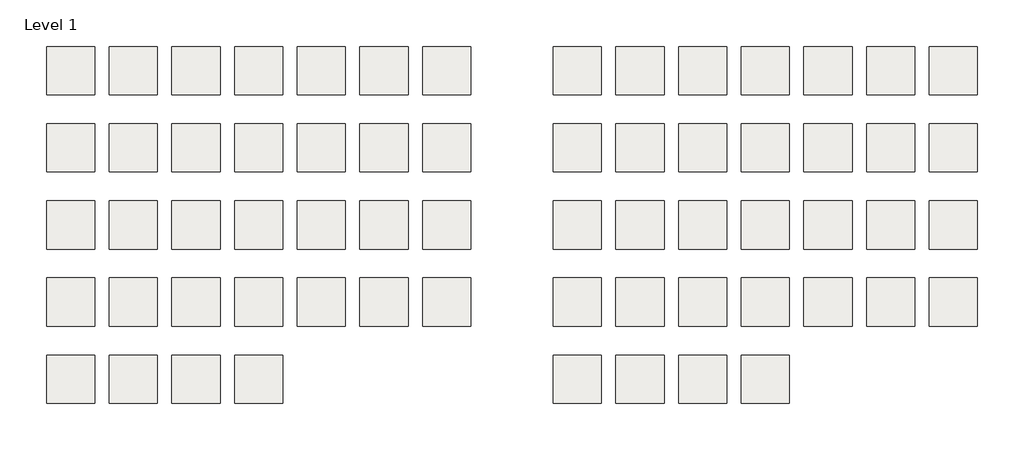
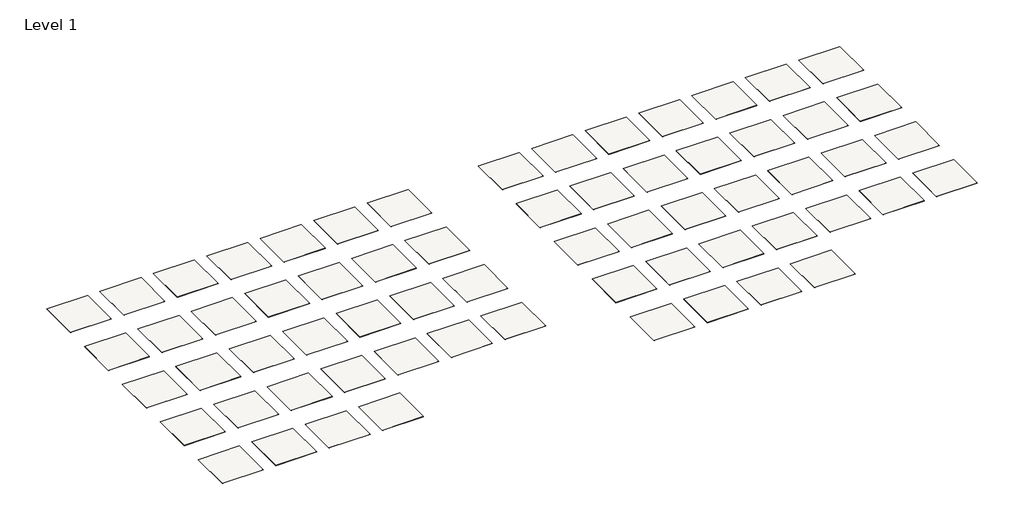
# One storey: 64 slabs.
"""IFC4 building model written with IfcOpenShell, lengths in millimetres."""

import ifcopenshell
import ifcopenshell.guid

model = None  # the IFC model being written
_history = None  # IfcOwnerHistory: only IFC2X3 demands one
_inside = {}  # id of a spatial element -> (the spatial element, [elements in it])
_under = {}  # id of a project, library or spatial element -> (it, [spatial elements below it])
_declared = {}  # id of a project -> (the project, [libraries it declares])
_typed = {}  # id of a type object -> (the type object, [elements of that type])
_made_of = {}  # id of a material, layer set ... -> (it, [elements and type objects made of it])


def new_model(schema):
    """Start an empty IFC model of exactly this schema.

    Asked for "IFC4X3", IfcOpenShell would pick the latest addendum, in which some entities
    have other attributes; the version numbers below select the first issue.
    IFC2X3 requires an IfcOwnerHistory on every rooted entity: one is made here for all.
    """
    global model, _history
    if schema == "IFC4X3":
        model = ifcopenshell.file(schema_version=(4, 3, 0, 0))
    else:
        model = ifcopenshell.file(schema=schema)
    _inside.clear()
    _under.clear()
    _declared.clear()
    _typed.clear()
    _made_of.clear()
    _history = None
    if model.schema == "IFC2X3":
        org = make("IfcOrganization", Name="unknown")
        user = make(
            "IfcPersonAndOrganization",
            ThePerson=make("IfcPerson", FamilyName="unknown"),
            TheOrganization=org,
        )
        app = make(
            "IfcApplication",
            ApplicationDeveloper=org,
            Version="unknown",
            ApplicationFullName="unknown",
            ApplicationIdentifier="unknown",
        )
        _history = make(
            "IfcOwnerHistory",
            OwningUser=user,
            OwningApplication=app,
            ChangeAction="ADDED",
            CreationDate=0,
        )
    return model


def make(cls, **values):
    """One entity of the class cls with the attributes given. An attribute that is None is left unset."""
    return model.create_entity(
        cls, **{name: value for name, value in values.items() if value is not None}
    )


def rooted(cls, **values):
    """An entity with a GlobalId (a new one), such as an element, a storey or a relation."""
    return make(cls, GlobalId=ifcopenshell.guid.new(), OwnerHistory=_history, **values)


def si_unit(unit_type, name, prefix=None):
    """IfcSIUnit, for example si_unit("LENGTHUNIT", "METRE", prefix="MILLI")."""
    return make("IfcSIUnit", UnitType=unit_type, Prefix=prefix, Name=name)


def assignment(units):
    """IfcUnitAssignment: the units of a project."""
    return None if units is None else make("IfcUnitAssignment", Units=units)


def point(xyz):
    """IfcCartesianPoint."""
    return None if xyz is None else make("IfcCartesianPoint", Coordinates=xyz)


def direction(xyz):
    """IfcDirection."""
    return None if xyz is None else make("IfcDirection", DirectionRatios=xyz)


def frame(location, z_axis=None, x_axis=None):
    """IfcAxis2Placement3D, a coordinate frame: its origin and axes. An axis left out is left unset."""
    return make(
        "IfcAxis2Placement3D",
        Location=point(location),
        Axis=direction(z_axis),
        RefDirection=direction(x_axis),
    )


def origin():
    """The frame at (0, 0, 0) with its axes left unset."""
    return frame((0.0, 0.0, 0.0))


def place(relative_to, where):
    """IfcLocalPlacement: puts the frame where relative to a parent placement (None: the world)."""
    return make(
        "IfcLocalPlacement", PlacementRelTo=relative_to, RelativePlacement=where
    )


def context(
    kind, dimensions, precision=None, world=None, true_north=None, identifier=None
):
    """IfcGeometricRepresentationContext, for example the 3D "Model" context."""
    return make(
        "IfcGeometricRepresentationContext",
        ContextIdentifier=identifier,
        ContextType=kind,
        CoordinateSpaceDimension=dimensions,
        Precision=precision,
        WorldCoordinateSystem=world,
        TrueNorth=true_north,
    )


def project(units=None, contexts=None):
    """IfcProject with its units and contexts."""
    return rooted(
        "IfcProject",
        Name="project",
        RepresentationContexts=contexts,
        UnitsInContext=assignment(units),
    )


def spatial(cls, under=None, at=None, **own):
    """A site, building, storey or space (cls), placed at a placement, below another one or the project."""
    s = rooted(cls, ObjectPlacement=at, **own)
    if under is not None:
        _under.setdefault(under.id(), (under, []))[1].append(s)
    return s


def polyline(points):
    """IfcPolyline through the points."""
    return make("IfcPolyline", Points=[point(p) for p in points])


def outline(outer, holes=None, kind="AREA"):
    """IfcArbitraryClosedProfileDef: a profile drawn as a closed curve; with holes, ...WithVoids."""
    if holes is None:
        return make("IfcArbitraryClosedProfileDef", ProfileType=kind, OuterCurve=outer)
    return make(
        "IfcArbitraryProfileDefWithVoids",
        ProfileType=kind,
        OuterCurve=outer,
        InnerCurves=holes,
    )


def extrude(swept, where, along, depth):
    """IfcExtrudedAreaSolid: the profile swept, set in the frame where, extruded along a direction by depth."""
    return make(
        "IfcExtrudedAreaSolid",
        SweptArea=swept,
        Position=where,
        ExtrudedDirection=direction(along),
        Depth=depth,
    )


def shape(context_of_items, identifier, shape_type, items):
    """IfcShapeRepresentation: the items that make up one representation, for example the "Body"."""
    return make(
        "IfcShapeRepresentation",
        ContextOfItems=context_of_items,
        RepresentationIdentifier=identifier,
        RepresentationType=shape_type,
        Items=items,
    )


def made_of(thing, what):
    """Note that an element or type object is made of a material, layer set ...; save() writes the relation."""
    if what is not None:
        _made_of.setdefault(what.id(), (what, []))[1].append(thing)
    return thing


def element(
    cls,
    number,
    at=None,
    inside=None,
    cuts=None,
    type_object=None,
    material=None,
    context=None,
    identifier="Body",
    shape_type=None,
    held_by="IfcProductDefinitionShape",
    body=None,
    shapes=None,
    **own,
):
    """One element of the class cls, such as IfcWall. Its Tag is "e" and its number.

    at: its placement. inside: the storey or other place that contains it. cuts: it is an
    opening in that element (IfcRelVoidsElement). A single representation is given by context,
    identifier, shape_type and body (its items); several are given by shapes. held_by: the class
    of the entity that holds the representations. save() writes the other relations.
    """
    e = rooted(cls, Tag="e%d" % number, ObjectPlacement=at, **own)
    if body is not None:
        shapes = [shape(context, identifier, shape_type, body)]
    if shapes is not None:
        e.Representation = make(held_by, Representations=shapes)
    if inside is not None:
        _inside.setdefault(inside.id(), (inside, []))[1].append(e)
    if cuts is not None:
        rooted(
            "IfcRelVoidsElement", RelatingBuildingElement=cuts, RelatedOpeningElement=e
        )
    if type_object is not None:
        _typed.setdefault(type_object.id(), (type_object, []))[1].append(e)
    return made_of(e, material)


def aggregate(whole, parts):
    """IfcRelAggregates: a whole, such as a stair, and the parts it consists of."""
    return rooted("IfcRelAggregates", RelatingObject=whole, RelatedObjects=parts)


def save(model, path):
    """Write the relations noted so far, then the file.

    IfcRelAggregates (storeys below a building ...), IfcRelContainedInSpatialStructure (elements
    in a storey), IfcRelDefinesByType, IfcRelAssociatesMaterial and IfcRelDeclares: one each for
    every whole, place, type object, material and project.
    """
    for whole, parts in _under.values():
        aggregate(whole, parts)
    for where, things in _inside.values():
        rooted(
            "IfcRelContainedInSpatialStructure",
            RelatedElements=things,
            RelatingStructure=where,
        )
    for kind, things in _typed.values():
        rooted("IfcRelDefinesByType", RelatedObjects=things, RelatingType=kind)
    for what, things in _made_of.values():
        rooted("IfcRelAssociatesMaterial", RelatedObjects=things, RelatingMaterial=what)
    for by, libraries in _declared.values():
        rooted("IfcRelDeclares", RelatingContext=by, RelatedDefinitions=libraries)
    model.write(path)


model = new_model("IFC4")

# Units and contexts
model_context = context("Model", 3, world=origin())
ifc_project = project(units=[si_unit("LENGTHUNIT", "METRE", prefix="MILLI")], contexts=[model_context])

# Site, building, storey
site = spatial("IfcSite", under=ifc_project)
building = spatial("IfcBuilding", under=site)
storey = spatial("IfcBuildingStorey", under=building, Name="Level 1", Elevation=0.0)

# Slabs
placement = place(None, origin())
element("IfcSlab", 1, ObjectType="Armstrong_VCT_Excelon ChromaSpin_54800 zinc oxide", at=placement, inside=storey, context=model_context, shape_type="SweptSolid", body=[
    extrude(outline(polyline([(3311.6055838, 2884.7695431), (3311.6055838, 1360.7695431), (1787.6055838, 1360.7695431), (1787.6055838, 2884.7695431), (3311.6055838, 2884.7695431)])), frame((0.0, 0.0, -3.175), z_axis=(0.0, 0.0, 1.0), x_axis=(1.0, 0.0, 0.0)), (0.0, 0.0, 1.0), 3.175),
])
element("IfcSlab", 2, ObjectType="Armstrong_VCT_Excelon ChromaSpin_54801 paynes gray", at=placement, inside=storey, context=model_context, shape_type="SweptSolid", body=[
    extrude(outline(polyline([(5292.8055838, 2884.7695431), (5292.8055838, 1360.7695431), (3768.8055838, 1360.7695431), (3768.8055838, 2884.7695431), (5292.8055838, 2884.7695431)])), frame((0.0, 0.0, -3.175), z_axis=(0.0, 0.0, 1.0), x_axis=(1.0, 0.0, 0.0)), (0.0, 0.0, 1.0), 3.175),
])
element("IfcSlab", 3, ObjectType="Armstrong_VCT_Excelon ChromaSpin_54802 carbonite", at=placement, inside=storey, context=model_context, shape_type="SweptSolid", body=[
    extrude(outline(polyline([(7274.0055838, 2884.7695431), (7274.0055838, 1360.7695431), (5750.0055838, 1360.7695431), (5750.0055838, 2884.7695431), (7274.0055838, 2884.7695431)])), frame((0.0, 0.0, -3.175), z_axis=(0.0, 0.0, 1.0), x_axis=(1.0, 0.0, 0.0)), (0.0, 0.0, 1.0), 3.175),
])
element("IfcSlab", 4, ObjectType="Armstrong_VCT_Excelon ChromaSpin_54803 lamp black", at=placement, inside=storey, context=model_context, shape_type="SweptSolid", body=[
    extrude(outline(polyline([(9255.2055838, 2884.7695431), (9255.2055838, 1360.7695431), (7731.2055838, 1360.7695431), (7731.2055838, 2884.7695431), (9255.2055838, 2884.7695431)])), frame((0.0, 0.0, -3.175), z_axis=(0.0, 0.0, 1.0), x_axis=(1.0, 0.0, 0.0)), (0.0, 0.0, 1.0), 3.175),
])
element("IfcSlab", 5, ObjectType="Armstrong_VCT_Excelon ChromaSpin_54804 monotype", at=placement, inside=storey, context=model_context, shape_type="SweptSolid", body=[
    extrude(outline(polyline([(11236.4055838, 2884.7695431), (11236.4055838, 1360.7695431), (9712.4055838, 1360.7695431), (9712.4055838, 2884.7695431), (11236.4055838, 2884.7695431)])), frame((0.0, 0.0, -3.175), z_axis=(0.0, 0.0, 1.0), x_axis=(1.0, 0.0, 0.0)), (0.0, 0.0, 1.0), 3.175),
])
element("IfcSlab", 6, ObjectType="Armstrong_VCT_Excelon ChromaSpin_54805 aquatint", at=placement, inside=storey, context=model_context, shape_type="SweptSolid", body=[
    extrude(outline(polyline([(13217.6055838, 2884.7695431), (13217.6055838, 1360.7695431), (11693.6055838, 1360.7695431), (11693.6055838, 2884.7695431), (13217.6055838, 2884.7695431)])), frame((0.0, 0.0, -3.175), z_axis=(0.0, 0.0, 1.0), x_axis=(1.0, 0.0, 0.0)), (0.0, 0.0, 1.0), 3.175),
])
element("IfcSlab", 7, ObjectType="Armstrong_VCT_Excelon ChromaSpin_54806 mezzotint", at=placement, inside=storey, context=model_context, shape_type="SweptSolid", body=[
    extrude(outline(polyline([(15198.8055838, 2884.7695431), (15198.8055838, 1360.7695431), (13674.8055838, 1360.7695431), (13674.8055838, 2884.7695431), (15198.8055838, 2884.7695431)])), frame((0.0, 0.0, -3.175), z_axis=(0.0, 0.0, 1.0), x_axis=(1.0, 0.0, 0.0)), (0.0, 0.0, 1.0), 3.175),
])
element("IfcSlab", 8, ObjectType="Armstrong_VCT_Excelon ChromaSpin_54807 primer white", at=placement, inside=storey, context=model_context, shape_type="SweptSolid", body=[
    extrude(outline(polyline([(3311.6055838, 446.3695431), (3311.6055838, -1077.6304569), (1787.6055838, -1077.6304569), (1787.6055838, 446.3695431), (3311.6055838, 446.3695431)])), frame((0.0, 0.0, -3.175), z_axis=(0.0, 0.0, 1.0), x_axis=(1.0, 0.0, 0.0)), (0.0, 0.0, 1.0), 3.175),
])
element("IfcSlab", 9, ObjectType="Armstrong_VCT_Excelon ChromaSpin_54808 silk", at=placement, inside=storey, context=model_context, shape_type="SweptSolid", body=[
    extrude(outline(polyline([(5292.8055838, 446.3695431), (5292.8055838, -1077.6304569), (3768.8055838, -1077.6304569), (3768.8055838, 446.3695431), (5292.8055838, 446.3695431)])), frame((0.0, 0.0, -3.175), z_axis=(0.0, 0.0, 1.0), x_axis=(1.0, 0.0, 0.0)), (0.0, 0.0, 1.0), 3.175),
])
element("IfcSlab", 10, ObjectType="Armstrong_VCT_Excelon ChromaSpin_54809 chairoscuro", at=placement, inside=storey, context=model_context, shape_type="SweptSolid", body=[
    extrude(outline(polyline([(7274.0055838, 446.3695431), (7274.0055838, -1077.6304569), (5750.0055838, -1077.6304569), (5750.0055838, 446.3695431), (7274.0055838, 446.3695431)])), frame((0.0, 0.0, -3.175), z_axis=(0.0, 0.0, 1.0), x_axis=(1.0, 0.0, 0.0)), (0.0, 0.0, 1.0), 3.175),
])
element("IfcSlab", 11, ObjectType="Armstrong_VCT_Excelon ChromaSpin_54810 blanco", at=placement, inside=storey, context=model_context, shape_type="SweptSolid", body=[
    extrude(outline(polyline([(9255.2055838, 446.3695431), (9255.2055838, -1077.6304569), (7731.2055838, -1077.6304569), (7731.2055838, 446.3695431), (9255.2055838, 446.3695431)])), frame((0.0, 0.0, -3.175), z_axis=(0.0, 0.0, 1.0), x_axis=(1.0, 0.0, 0.0)), (0.0, 0.0, 1.0), 3.175),
])
element("IfcSlab", 12, ObjectType="Armstrong_VCT_Excelon ChromaSpin_54811 encaustic", at=placement, inside=storey, context=model_context, shape_type="SweptSolid", body=[
    extrude(outline(polyline([(11236.4055838, 446.3695431), (11236.4055838, -1077.6304569), (9712.4055838, -1077.6304569), (9712.4055838, 446.3695431), (11236.4055838, 446.3695431)])), frame((0.0, 0.0, -3.175), z_axis=(0.0, 0.0, 1.0), x_axis=(1.0, 0.0, 0.0)), (0.0, 0.0, 1.0), 3.175),
])
element("IfcSlab", 13, ObjectType="Armstrong_VCT_Excelon ChromaSpin_54812 sepiatone", at=placement, inside=storey, context=model_context, shape_type="SweptSolid", body=[
    extrude(outline(polyline([(13217.6055838, 446.3695431), (13217.6055838, -1077.6304569), (11693.6055838, -1077.6304569), (11693.6055838, 446.3695431), (13217.6055838, 446.3695431)])), frame((0.0, 0.0, -3.175), z_axis=(0.0, 0.0, 1.0), x_axis=(1.0, 0.0, 0.0)), (0.0, 0.0, 1.0), 3.175),
])
element("IfcSlab", 14, ObjectType="Armstrong_VCT_Excelon ChromaSpin_54813 durer brown", at=placement, inside=storey, context=model_context, shape_type="SweptSolid", body=[
    extrude(outline(polyline([(15198.8055838, 446.3695431), (15198.8055838, -1077.6304569), (13674.8055838, -1077.6304569), (13674.8055838, 446.3695431), (15198.8055838, 446.3695431)])), frame((0.0, 0.0, -3.175), z_axis=(0.0, 0.0, 1.0), x_axis=(1.0, 0.0, 0.0)), (0.0, 0.0, 1.0), 3.175),
])
element("IfcSlab", 15, ObjectType="Armstrong_VCT_Excelon ChromaSpin_5414 muslin", at=placement, inside=storey, context=model_context, shape_type="SweptSolid", body=[
    extrude(outline(polyline([(3311.6055838, -1992.0304569), (3311.6055838, -3516.0304569), (1787.6055838, -3516.0304569), (1787.6055838, -1992.0304569), (3311.6055838, -1992.0304569)])), frame((0.0, 0.0, -3.175), z_axis=(0.0, 0.0, 1.0), x_axis=(1.0, 0.0, 0.0)), (0.0, 0.0, 1.0), 3.175),
])
element("IfcSlab", 16, ObjectType="Armstrong_VCT_Excelon ChromaSpin_54815 soft ochre", at=placement, inside=storey, context=model_context, shape_type="SweptSolid", body=[
    extrude(outline(polyline([(5292.8055838, -1992.0304569), (5292.8055838, -3516.0304569), (3768.8055838, -3516.0304569), (3768.8055838, -1992.0304569), (5292.8055838, -1992.0304569)])), frame((0.0, 0.0, -3.175), z_axis=(0.0, 0.0, 1.0), x_axis=(1.0, 0.0, 0.0)), (0.0, 0.0, 1.0), 3.175),
])
element("IfcSlab", 17, ObjectType="Armstrong_VCT_Excelon ChromaSpin_54816 raw sienna", at=placement, inside=storey, context=model_context, shape_type="SweptSolid", body=[
    extrude(outline(polyline([(7274.0055838, -1992.0304569), (7274.0055838, -3516.0304569), (5750.0055838, -3516.0304569), (5750.0055838, -1992.0304569), (7274.0055838, -1992.0304569)])), frame((0.0, 0.0, -3.175), z_axis=(0.0, 0.0, 1.0), x_axis=(1.0, 0.0, 0.0)), (0.0, 0.0, 1.0), 3.175),
])
element("IfcSlab", 18, ObjectType="Armstrong_VCT_Excelon ChromaSpin_54817 deep yellow", at=placement, inside=storey, context=model_context, shape_type="SweptSolid", body=[
    extrude(outline(polyline([(9255.2055838, -1992.0304569), (9255.2055838, -3516.0304569), (7731.2055838, -3516.0304569), (7731.2055838, -1992.0304569), (9255.2055838, -1992.0304569)])), frame((0.0, 0.0, -3.175), z_axis=(0.0, 0.0, 1.0), x_axis=(1.0, 0.0, 0.0)), (0.0, 0.0, 1.0), 3.175),
])
element("IfcSlab", 19, ObjectType="Armstrong_VCT_Excelon ChromaSpin_54818 india red", at=placement, inside=storey, context=model_context, shape_type="SweptSolid", body=[
    extrude(outline(polyline([(11236.4055838, -1992.0304569), (11236.4055838, -3516.0304569), (9712.4055838, -3516.0304569), (9712.4055838, -1992.0304569), (11236.4055838, -1992.0304569)])), frame((0.0, 0.0, -3.175), z_axis=(0.0, 0.0, 1.0), x_axis=(1.0, 0.0, 0.0)), (0.0, 0.0, 1.0), 3.175),
])
element("IfcSlab", 20, ObjectType="Armstrong_VCT_Excelon ChromaSpin_54819 conte crayon", at=placement, inside=storey, context=model_context, shape_type="SweptSolid", body=[
    extrude(outline(polyline([(13217.6055838, -1992.0304569), (13217.6055838, -3516.0304569), (11693.6055838, -3516.0304569), (11693.6055838, -1992.0304569), (13217.6055838, -1992.0304569)])), frame((0.0, 0.0, -3.175), z_axis=(0.0, 0.0, 1.0), x_axis=(1.0, 0.0, 0.0)), (0.0, 0.0, 1.0), 3.175),
])
element("IfcSlab", 21, ObjectType="Armstrong_VCT_Excelon ChromaSpin_54820 brilliant orange", at=placement, inside=storey, context=model_context, shape_type="SweptSolid", body=[
    extrude(outline(polyline([(15198.8055838, -1992.0304569), (15198.8055838, -3516.0304569), (13674.8055838, -3516.0304569), (13674.8055838, -1992.0304569), (15198.8055838, -1992.0304569)])), frame((0.0, 0.0, -3.175), z_axis=(0.0, 0.0, 1.0), x_axis=(1.0, 0.0, 0.0)), (0.0, 0.0, 1.0), 3.175),
])
element("IfcSlab", 22, ObjectType="Armstrong_VCT_Excelon ChromaSpin_54821 alizarin crimson", at=placement, inside=storey, context=model_context, shape_type="SweptSolid", body=[
    extrude(outline(polyline([(3311.6055838, -4430.4304569), (3311.6055838, -5954.4304569), (1787.6055838, -5954.4304569), (1787.6055838, -4430.4304569), (3311.6055838, -4430.4304569)])), frame((0.0, 0.0, -3.175), z_axis=(0.0, 0.0, 1.0), x_axis=(1.0, 0.0, 0.0)), (0.0, 0.0, 1.0), 3.175),
])
element("IfcSlab", 23, ObjectType="Armstrong_VCT_Excelon ChromaSpin_54822 carminelle", at=placement, inside=storey, context=model_context, shape_type="SweptSolid", body=[
    extrude(outline(polyline([(5292.8055838, -4430.4304569), (5292.8055838, -5954.4304569), (3768.8055838, -5954.4304569), (3768.8055838, -4430.4304569), (5292.8055838, -4430.4304569)])), frame((0.0, 0.0, -3.175), z_axis=(0.0, 0.0, 1.0), x_axis=(1.0, 0.0, 0.0)), (0.0, 0.0, 1.0), 3.175),
])
element("IfcSlab", 24, ObjectType="Armstrong_VCT_Excelon ChromaSpin_54823 flash red", at=placement, inside=storey, context=model_context, shape_type="SweptSolid", body=[
    extrude(outline(polyline([(7274.0055838, -4430.4304569), (7274.0055838, -5954.4304569), (5750.0055838, -5954.4304569), (5750.0055838, -4430.4304569), (7274.0055838, -4430.4304569)])), frame((0.0, 0.0, -3.175), z_axis=(0.0, 0.0, 1.0), x_axis=(1.0, 0.0, 0.0)), (0.0, 0.0, 1.0), 3.175),
])
element("IfcSlab", 25, ObjectType="Armstrong_VCT_Excelon ChromaSpin_54824 neodymium", at=placement, inside=storey, context=model_context, shape_type="SweptSolid", body=[
    extrude(outline(polyline([(9255.2055838, -4430.4304569), (9255.2055838, -5954.4304569), (7731.2055838, -5954.4304569), (7731.2055838, -4430.4304569), (9255.2055838, -4430.4304569)])), frame((0.0, 0.0, -3.175), z_axis=(0.0, 0.0, 1.0), x_axis=(1.0, 0.0, 0.0)), (0.0, 0.0, 1.0), 3.175),
])
element("IfcSlab", 26, ObjectType="Armstrong_VCT_Excelon ChromaSpin_54825 mineral blue", at=placement, inside=storey, context=model_context, shape_type="SweptSolid", body=[
    extrude(outline(polyline([(11236.4055838, -4430.4304569), (11236.4055838, -5954.4304569), (9712.4055838, -5954.4304569), (9712.4055838, -4430.4304569), (11236.4055838, -4430.4304569)])), frame((0.0, 0.0, -3.175), z_axis=(0.0, 0.0, 1.0), x_axis=(1.0, 0.0, 0.0)), (0.0, 0.0, 1.0), 3.175),
])
element("IfcSlab", 27, ObjectType="Armstrong_VCT_Excelon ChromaSpin_54826 windsor blue", at=placement, inside=storey, context=model_context, shape_type="SweptSolid", body=[
    extrude(outline(polyline([(13217.6055838, -4430.4304569), (13217.6055838, -5954.4304569), (11693.6055838, -5954.4304569), (11693.6055838, -4430.4304569), (13217.6055838, -4430.4304569)])), frame((0.0, 0.0, -3.175), z_axis=(0.0, 0.0, 1.0), x_axis=(1.0, 0.0, 0.0)), (0.0, 0.0, 1.0), 3.175),
])
element("IfcSlab", 28, ObjectType="Armstrong_VCT_Excelon ChromaSpin_54827 cerulean", at=placement, inside=storey, context=model_context, shape_type="SweptSolid", body=[
    extrude(outline(polyline([(15198.8055838, -4430.4304569), (15198.8055838, -5954.4304569), (13674.8055838, -5954.4304569), (13674.8055838, -4430.4304569), (15198.8055838, -4430.4304569)])), frame((0.0, 0.0, -3.175), z_axis=(0.0, 0.0, 1.0), x_axis=(1.0, 0.0, 0.0)), (0.0, 0.0, 1.0), 3.175),
])
element("IfcSlab", 29, ObjectType="Armstrong_VCT_Excelon ChromaSpin_54828 vermeer green", at=placement, inside=storey, context=model_context, shape_type="SweptSolid", body=[
    extrude(outline(polyline([(3311.6055838, -6868.8304569), (3311.6055838, -8392.8304569), (1787.6055838, -8392.8304569), (1787.6055838, -6868.8304569), (3311.6055838, -6868.8304569)])), frame((0.0, 0.0, -3.175), z_axis=(0.0, 0.0, 1.0), x_axis=(1.0, 0.0, 0.0)), (0.0, 0.0, 1.0), 3.175),
])
element("IfcSlab", 30, ObjectType="Armstrong_VCT_Excelon ChromaSpin_54829 shadow green", at=placement, inside=storey, context=model_context, shape_type="SweptSolid", body=[
    extrude(outline(polyline([(5292.8055838, -6868.8304569), (5292.8055838, -8392.8304569), (3768.8055838, -8392.8304569), (3768.8055838, -6868.8304569), (5292.8055838, -6868.8304569)])), frame((0.0, 0.0, -3.175), z_axis=(0.0, 0.0, 1.0), x_axis=(1.0, 0.0, 0.0)), (0.0, 0.0, 1.0), 3.175),
])
element("IfcSlab", 31, ObjectType="Armstrong_VCT_Excelon ChromaSpin_54830 chrome green", at=placement, inside=storey, context=model_context, shape_type="SweptSolid", body=[
    extrude(outline(polyline([(7274.0055838, -6868.8304569), (7274.0055838, -8392.8304569), (5750.0055838, -8392.8304569), (5750.0055838, -6868.8304569), (7274.0055838, -6868.8304569)])), frame((0.0, 0.0, -3.175), z_axis=(0.0, 0.0, 1.0), x_axis=(1.0, 0.0, 0.0)), (0.0, 0.0, 1.0), 3.175),
])
element("IfcSlab", 32, ObjectType="Armstrong_VCT_Excelon ChromaSpin_54831 olive", at=placement, inside=storey, context=model_context, shape_type="SweptSolid", body=[
    extrude(outline(polyline([(9255.2055838, -6868.8304569), (9255.2055838, -8392.8304569), (7731.2055838, -8392.8304569), (7731.2055838, -6868.8304569), (9255.2055838, -6868.8304569)])), frame((0.0, 0.0, -3.175), z_axis=(0.0, 0.0, 1.0), x_axis=(1.0, 0.0, 0.0)), (0.0, 0.0, 1.0), 3.175),
])
element("IfcSlab", 33, ObjectType="Armstrong_VCT_Excelon ChromaSpin_54800 zinc oxide (quarter turned)", at=placement, inside=storey, context=model_context, shape_type="SweptSolid", body=[
    extrude(outline(polyline([(19325.5836473, 2884.7695431), (19325.5836473, 1360.7695431), (17801.5836473, 1360.7695431), (17801.5836473, 2884.7695431), (19325.5836473, 2884.7695431)])), frame((0.0, 0.0, -3.175), z_axis=(0.0, 0.0, 1.0), x_axis=(1.0, 0.0, 0.0)), (0.0, 0.0, 1.0), 3.175),
])
element("IfcSlab", 34, ObjectType="Armstrong_VCT_Excelon ChromaSpin_54801 paynes gray (quarter turned)", at=placement, inside=storey, context=model_context, shape_type="SweptSolid", body=[
    extrude(outline(polyline([(21306.7836473, 2884.7695431), (21306.7836473, 1360.7695431), (19782.7836473, 1360.7695431), (19782.7836473, 2884.7695431), (21306.7836473, 2884.7695431)])), frame((0.0, 0.0, -3.175), z_axis=(0.0, 0.0, 1.0), x_axis=(1.0, 0.0, 0.0)), (0.0, 0.0, 1.0), 3.175),
])
element("IfcSlab", 35, ObjectType="Armstrong_VCT_Excelon ChromaSpin_54802 carbonite (quarter turned)", at=placement, inside=storey, context=model_context, shape_type="SweptSolid", body=[
    extrude(outline(polyline([(23287.9836473, 2884.7695431), (23287.9836473, 1360.7695431), (21763.9836473, 1360.7695431), (21763.9836473, 2884.7695431), (23287.9836473, 2884.7695431)])), frame((0.0, 0.0, -3.175), z_axis=(0.0, 0.0, 1.0), x_axis=(1.0, 0.0, 0.0)), (0.0, 0.0, 1.0), 3.175),
])
element("IfcSlab", 36, ObjectType="Armstrong_VCT_Excelon ChromaSpin_54803 lamp black (quarter turned)", at=placement, inside=storey, context=model_context, shape_type="SweptSolid", body=[
    extrude(outline(polyline([(25269.1836473, 2884.7695431), (25269.1836473, 1360.7695431), (23745.1836473, 1360.7695431), (23745.1836473, 2884.7695431), (25269.1836473, 2884.7695431)])), frame((0.0, 0.0, -3.175), z_axis=(0.0, 0.0, 1.0), x_axis=(1.0, 0.0, 0.0)), (0.0, 0.0, 1.0), 3.175),
])
element("IfcSlab", 37, ObjectType="Armstrong_VCT_Excelon ChromaSpin_54804 monotype (quarter turned)", at=placement, inside=storey, context=model_context, shape_type="SweptSolid", body=[
    extrude(outline(polyline([(27250.3836473, 2884.7695431), (27250.3836473, 1360.7695431), (25726.3836473, 1360.7695431), (25726.3836473, 2884.7695431), (27250.3836473, 2884.7695431)])), frame((0.0, 0.0, -3.175), z_axis=(0.0, 0.0, 1.0), x_axis=(1.0, 0.0, 0.0)), (0.0, 0.0, 1.0), 3.175),
])
element("IfcSlab", 38, ObjectType="Armstrong_VCT_Excelon ChromaSpin_54805 aquatint (quarter turned)", at=placement, inside=storey, context=model_context, shape_type="SweptSolid", body=[
    extrude(outline(polyline([(29231.5836473, 2884.7695431), (29231.5836473, 1360.7695431), (27707.5836473, 1360.7695431), (27707.5836473, 2884.7695431), (29231.5836473, 2884.7695431)])), frame((0.0, 0.0, -3.175), z_axis=(0.0, 0.0, 1.0), x_axis=(1.0, 0.0, 0.0)), (0.0, 0.0, 1.0), 3.175),
])
element("IfcSlab", 39, ObjectType="Armstrong_VCT_Excelon ChromaSpin_54806 mezzotint (quarter turned)", at=placement, inside=storey, context=model_context, shape_type="SweptSolid", body=[
    extrude(outline(polyline([(31212.7836473, 2884.7695431), (31212.7836473, 1360.7695431), (29688.7836473, 1360.7695431), (29688.7836473, 2884.7695431), (31212.7836473, 2884.7695431)])), frame((0.0, 0.0, -3.175), z_axis=(0.0, 0.0, 1.0), x_axis=(1.0, 0.0, 0.0)), (0.0, 0.0, 1.0), 3.175),
])
element("IfcSlab", 40, ObjectType="Armstrong_VCT_Excelon ChromaSpin_54807 primer white (quarter turned)", at=placement, inside=storey, context=model_context, shape_type="SweptSolid", body=[
    extrude(outline(polyline([(19325.5836473, 446.3695431), (19325.5836473, -1077.6304569), (17801.5836473, -1077.6304569), (17801.5836473, 446.3695431), (19325.5836473, 446.3695431)])), frame((0.0, 0.0, -3.175), z_axis=(0.0, 0.0, 1.0), x_axis=(1.0, 0.0, 0.0)), (0.0, 0.0, 1.0), 3.175),
])
element("IfcSlab", 41, ObjectType="Armstrong_VCT_Excelon ChromaSpin_54808 silk (quarter turned)", at=placement, inside=storey, context=model_context, shape_type="SweptSolid", body=[
    extrude(outline(polyline([(21306.7836473, 446.3695431), (21306.7836473, -1077.6304569), (19782.7836473, -1077.6304569), (19782.7836473, 446.3695431), (21306.7836473, 446.3695431)])), frame((0.0, 0.0, -3.175), z_axis=(0.0, 0.0, 1.0), x_axis=(1.0, 0.0, 0.0)), (0.0, 0.0, 1.0), 3.175),
])
element("IfcSlab", 42, ObjectType="Armstrong_VCT_Excelon ChromaSpin_54809 chairoscuro (quarter turned)", at=placement, inside=storey, context=model_context, shape_type="SweptSolid", body=[
    extrude(outline(polyline([(23287.9836473, 446.3695431), (23287.9836473, -1077.6304569), (21763.9836473, -1077.6304569), (21763.9836473, 446.3695431), (23287.9836473, 446.3695431)])), frame((0.0, 0.0, -3.175), z_axis=(0.0, 0.0, 1.0), x_axis=(1.0, 0.0, 0.0)), (0.0, 0.0, 1.0), 3.175),
])
element("IfcSlab", 43, ObjectType="Armstrong_VCT_Excelon ChromaSpin_54810 blanco (quarter turned)", at=placement, inside=storey, context=model_context, shape_type="SweptSolid", body=[
    extrude(outline(polyline([(25269.1836473, 446.3695431), (25269.1836473, -1077.6304569), (23745.1836473, -1077.6304569), (23745.1836473, 446.3695431), (25269.1836473, 446.3695431)])), frame((0.0, 0.0, -3.175), z_axis=(0.0, 0.0, 1.0), x_axis=(1.0, 0.0, 0.0)), (0.0, 0.0, 1.0), 3.175),
])
element("IfcSlab", 44, ObjectType="Armstrong_VCT_Excelon ChromaSpin_54811 encaustic (quarter turned)", at=placement, inside=storey, context=model_context, shape_type="SweptSolid", body=[
    extrude(outline(polyline([(27250.3836473, 446.3695431), (27250.3836473, -1077.6304569), (25726.3836473, -1077.6304569), (25726.3836473, 446.3695431), (27250.3836473, 446.3695431)])), frame((0.0, 0.0, -3.175), z_axis=(0.0, 0.0, 1.0), x_axis=(1.0, 0.0, 0.0)), (0.0, 0.0, 1.0), 3.175),
])
element("IfcSlab", 45, ObjectType="Armstrong_VCT_Excelon ChromaSpin_54812 sepiatone (quarter turned)", at=placement, inside=storey, context=model_context, shape_type="SweptSolid", body=[
    extrude(outline(polyline([(29231.5836473, 446.3695431), (29231.5836473, -1077.6304569), (27707.5836473, -1077.6304569), (27707.5836473, 446.3695431), (29231.5836473, 446.3695431)])), frame((0.0, 0.0, -3.175), z_axis=(0.0, 0.0, 1.0), x_axis=(1.0, 0.0, 0.0)), (0.0, 0.0, 1.0), 3.175),
])
element("IfcSlab", 46, ObjectType="Armstrong_VCT_Excelon ChromaSpin_54813 durer brown (quarter turned)", at=placement, inside=storey, context=model_context, shape_type="SweptSolid", body=[
    extrude(outline(polyline([(31212.7836473, 446.3695431), (31212.7836473, -1077.6304569), (29688.7836473, -1077.6304569), (29688.7836473, 446.3695431), (31212.7836473, 446.3695431)])), frame((0.0, 0.0, -3.175), z_axis=(0.0, 0.0, 1.0), x_axis=(1.0, 0.0, 0.0)), (0.0, 0.0, 1.0), 3.175),
])
element("IfcSlab", 47, ObjectType="Armstrong_VCT_Excelon ChromaSpin_5414 muslin (quarter turned)", at=placement, inside=storey, context=model_context, shape_type="SweptSolid", body=[
    extrude(outline(polyline([(19325.5836473, -1992.0304569), (19325.5836473, -3516.0304569), (17801.5836473, -3516.0304569), (17801.5836473, -1992.0304569), (19325.5836473, -1992.0304569)])), frame((0.0, 0.0, -3.175), z_axis=(0.0, 0.0, 1.0), x_axis=(1.0, 0.0, 0.0)), (0.0, 0.0, 1.0), 3.175),
])
element("IfcSlab", 48, ObjectType="Armstrong_VCT_Excelon ChromaSpin_54815 soft ochre (quarter turned)", at=placement, inside=storey, context=model_context, shape_type="SweptSolid", body=[
    extrude(outline(polyline([(21306.7836473, -1992.0304569), (21306.7836473, -3516.0304569), (19782.7836473, -3516.0304569), (19782.7836473, -1992.0304569), (21306.7836473, -1992.0304569)])), frame((0.0, 0.0, -3.175), z_axis=(0.0, 0.0, 1.0), x_axis=(1.0, 0.0, 0.0)), (0.0, 0.0, 1.0), 3.175),
])
element("IfcSlab", 49, ObjectType="Armstrong_VCT_Excelon ChromaSpin_54816 raw sienna (quarter turned)", at=placement, inside=storey, context=model_context, shape_type="SweptSolid", body=[
    extrude(outline(polyline([(23287.9836473, -1992.0304569), (23287.9836473, -3516.0304569), (21763.9836473, -3516.0304569), (21763.9836473, -1992.0304569), (23287.9836473, -1992.0304569)])), frame((0.0, 0.0, -3.175), z_axis=(0.0, 0.0, 1.0), x_axis=(1.0, 0.0, 0.0)), (0.0, 0.0, 1.0), 3.175),
])
element("IfcSlab", 50, ObjectType="Armstrong_VCT_Excelon ChromaSpin_54817 deep yellow (quarter turned)", at=placement, inside=storey, context=model_context, shape_type="SweptSolid", body=[
    extrude(outline(polyline([(25269.1836473, -1992.0304569), (25269.1836473, -3516.0304569), (23745.1836473, -3516.0304569), (23745.1836473, -1992.0304569), (25269.1836473, -1992.0304569)])), frame((0.0, 0.0, -3.175), z_axis=(0.0, 0.0, 1.0), x_axis=(1.0, 0.0, 0.0)), (0.0, 0.0, 1.0), 3.175),
])
element("IfcSlab", 51, ObjectType="Armstrong_VCT_Excelon ChromaSpin_54818 india red (quarter turned)", at=placement, inside=storey, context=model_context, shape_type="SweptSolid", body=[
    extrude(outline(polyline([(27250.3836473, -1992.0304569), (27250.3836473, -3516.0304569), (25726.3836473, -3516.0304569), (25726.3836473, -1992.0304569), (27250.3836473, -1992.0304569)])), frame((0.0, 0.0, -3.175), z_axis=(0.0, 0.0, 1.0), x_axis=(1.0, 0.0, 0.0)), (0.0, 0.0, 1.0), 3.175),
])
element("IfcSlab", 52, ObjectType="Armstrong_VCT_Excelon ChromaSpin_54819 conte crayon (quarter turned)", at=placement, inside=storey, context=model_context, shape_type="SweptSolid", body=[
    extrude(outline(polyline([(29231.5836473, -1992.0304569), (29231.5836473, -3516.0304569), (27707.5836473, -3516.0304569), (27707.5836473, -1992.0304569), (29231.5836473, -1992.0304569)])), frame((0.0, 0.0, -3.175), z_axis=(0.0, 0.0, 1.0), x_axis=(1.0, 0.0, 0.0)), (0.0, 0.0, 1.0), 3.175),
])
element("IfcSlab", 53, ObjectType="Armstrong_VCT_Excelon ChromaSpin_54820 brilliant orange (quarter turned)", at=placement, inside=storey, context=model_context, shape_type="SweptSolid", body=[
    extrude(outline(polyline([(31212.7836473, -1992.0304569), (31212.7836473, -3516.0304569), (29688.7836473, -3516.0304569), (29688.7836473, -1992.0304569), (31212.7836473, -1992.0304569)])), frame((0.0, 0.0, -3.175), z_axis=(0.0, 0.0, 1.0), x_axis=(1.0, 0.0, 0.0)), (0.0, 0.0, 1.0), 3.175),
])
element("IfcSlab", 54, ObjectType="Armstrong_VCT_Excelon ChromaSpin_54821 alizarin crimson (quarter turned)", at=placement, inside=storey, context=model_context, shape_type="SweptSolid", body=[
    extrude(outline(polyline([(19325.5836473, -4430.4304569), (19325.5836473, -5954.4304569), (17801.5836473, -5954.4304569), (17801.5836473, -4430.4304569), (19325.5836473, -4430.4304569)])), frame((0.0, 0.0, -3.175), z_axis=(0.0, 0.0, 1.0), x_axis=(1.0, 0.0, 0.0)), (0.0, 0.0, 1.0), 3.175),
])
element("IfcSlab", 55, ObjectType="Armstrong_VCT_Excelon ChromaSpin_54822 carminelle (quarter turned)", at=placement, inside=storey, context=model_context, shape_type="SweptSolid", body=[
    extrude(outline(polyline([(21306.7836473, -4430.4304569), (21306.7836473, -5954.4304569), (19782.7836473, -5954.4304569), (19782.7836473, -4430.4304569), (21306.7836473, -4430.4304569)])), frame((0.0, 0.0, -3.175), z_axis=(0.0, 0.0, 1.0), x_axis=(1.0, 0.0, 0.0)), (0.0, 0.0, 1.0), 3.175),
])
element("IfcSlab", 56, ObjectType="Armstrong_VCT_Excelon ChromaSpin_54823 flash red (quarter turned)", at=placement, inside=storey, context=model_context, shape_type="SweptSolid", body=[
    extrude(outline(polyline([(23287.9836473, -4430.4304569), (23287.9836473, -5954.4304569), (21763.9836473, -5954.4304569), (21763.9836473, -4430.4304569), (23287.9836473, -4430.4304569)])), frame((0.0, 0.0, -3.175), z_axis=(0.0, 0.0, 1.0), x_axis=(1.0, 0.0, 0.0)), (0.0, 0.0, 1.0), 3.175),
])
element("IfcSlab", 57, ObjectType="Armstrong_VCT_Excelon ChromaSpin_54824 neodymium (quarter turned)", at=placement, inside=storey, context=model_context, shape_type="SweptSolid", body=[
    extrude(outline(polyline([(25269.1836473, -4430.4304569), (25269.1836473, -5954.4304569), (23745.1836473, -5954.4304569), (23745.1836473, -4430.4304569), (25269.1836473, -4430.4304569)])), frame((0.0, 0.0, -3.175), z_axis=(0.0, 0.0, 1.0), x_axis=(1.0, 0.0, 0.0)), (0.0, 0.0, 1.0), 3.175),
])
element("IfcSlab", 58, ObjectType="Armstrong_VCT_Excelon ChromaSpin_54825 mineral blue (quarter turned)", at=placement, inside=storey, context=model_context, shape_type="SweptSolid", body=[
    extrude(outline(polyline([(27250.3836473, -4430.4304569), (27250.3836473, -5954.4304569), (25726.3836473, -5954.4304569), (25726.3836473, -4430.4304569), (27250.3836473, -4430.4304569)])), frame((0.0, 0.0, -3.175), z_axis=(0.0, 0.0, 1.0), x_axis=(1.0, 0.0, 0.0)), (0.0, 0.0, 1.0), 3.175),
])
element("IfcSlab", 59, ObjectType="Armstrong_VCT_Excelon ChromaSpin_54826 windsor blue (quarter turned)", at=placement, inside=storey, context=model_context, shape_type="SweptSolid", body=[
    extrude(outline(polyline([(29231.5836473, -4430.4304569), (29231.5836473, -5954.4304569), (27707.5836473, -5954.4304569), (27707.5836473, -4430.4304569), (29231.5836473, -4430.4304569)])), frame((0.0, 0.0, -3.175), z_axis=(0.0, 0.0, 1.0), x_axis=(1.0, 0.0, 0.0)), (0.0, 0.0, 1.0), 3.175),
])
element("IfcSlab", 60, ObjectType="Armstrong_VCT_Excelon ChromaSpin_54827 cerulean (quarter turned)", at=placement, inside=storey, context=model_context, shape_type="SweptSolid", body=[
    extrude(outline(polyline([(31212.7836473, -4430.4304569), (31212.7836473, -5954.4304569), (29688.7836473, -5954.4304569), (29688.7836473, -4430.4304569), (31212.7836473, -4430.4304569)])), frame((0.0, 0.0, -3.175), z_axis=(0.0, 0.0, 1.0), x_axis=(1.0, 0.0, 0.0)), (0.0, 0.0, 1.0), 3.175),
])
element("IfcSlab", 61, ObjectType="Armstrong_VCT_Excelon ChromaSpin_54828 vermeer green (quarter turned)", at=placement, inside=storey, context=model_context, shape_type="SweptSolid", body=[
    extrude(outline(polyline([(19325.5836473, -6868.8304569), (19325.5836473, -8392.8304569), (17801.5836473, -8392.8304569), (17801.5836473, -6868.8304569), (19325.5836473, -6868.8304569)])), frame((0.0, 0.0, -3.175), z_axis=(0.0, 0.0, 1.0), x_axis=(1.0, 0.0, 0.0)), (0.0, 0.0, 1.0), 3.175),
])
element("IfcSlab", 62, ObjectType="Armstrong_VCT_Excelon ChromaSpin_54829 shadow green (quarter turned)", at=placement, inside=storey, context=model_context, shape_type="SweptSolid", body=[
    extrude(outline(polyline([(21306.7836473, -6868.8304569), (21306.7836473, -8392.8304569), (19782.7836473, -8392.8304569), (19782.7836473, -6868.8304569), (21306.7836473, -6868.8304569)])), frame((0.0, 0.0, -3.175), z_axis=(0.0, 0.0, 1.0), x_axis=(1.0, 0.0, 0.0)), (0.0, 0.0, 1.0), 3.175),
])
element("IfcSlab", 63, ObjectType="Armstrong_VCT_Excelon ChromaSpin_54830 chrome green (quarter turned)", at=placement, inside=storey, context=model_context, shape_type="SweptSolid", body=[
    extrude(outline(polyline([(23287.9836473, -6868.8304569), (23287.9836473, -8392.8304569), (21763.9836473, -8392.8304569), (21763.9836473, -6868.8304569), (23287.9836473, -6868.8304569)])), frame((0.0, 0.0, -3.175), z_axis=(0.0, 0.0, 1.0), x_axis=(1.0, 0.0, 0.0)), (0.0, 0.0, 1.0), 3.175),
])
element("IfcSlab", 64, ObjectType="Armstrong_VCT_Excelon ChromaSpin_54831 olive (quarter turned)", at=placement, inside=storey, context=model_context, shape_type="SweptSolid", body=[
    extrude(outline(polyline([(25269.1836473, -6868.8304569), (25269.1836473, -8392.8304569), (23745.1836473, -8392.8304569), (23745.1836473, -6868.8304569), (25269.1836473, -6868.8304569)])), frame((0.0, 0.0, -3.175), z_axis=(0.0, 0.0, 1.0), x_axis=(1.0, 0.0, 0.0)), (0.0, 0.0, 1.0), 3.175),
])

save(model, "model.ifc")
